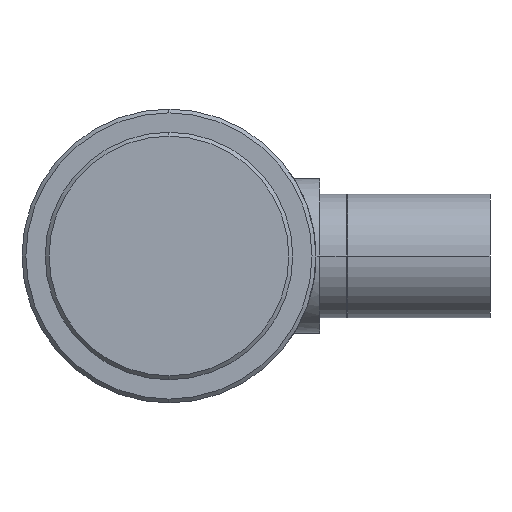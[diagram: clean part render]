
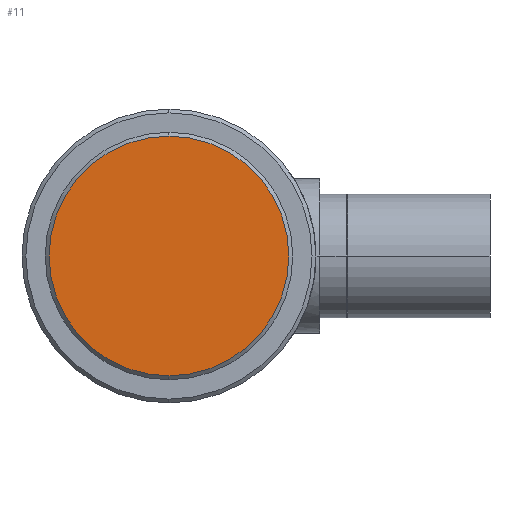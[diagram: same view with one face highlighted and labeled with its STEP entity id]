
A CAD part, left-side view. The second image highlights one B-rep face of the part: STEP entity #11.
In plain terms, the highlighted planar face has unit normal (-1, 0, 0).
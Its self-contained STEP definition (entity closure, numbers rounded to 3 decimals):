
#11 = ADVANCED_FACE ( 'NONE', ( #1395 ), #418, .T. ) ;
#65 = EDGE_CURVE ( 'NONE', #368, #1455, #1698, .T. ) ;
#252 = DIRECTION ( 'NONE',  ( -1., 0., 0. ) ) ;
#368 = VERTEX_POINT ( 'NONE', #931 ) ;
#382 = DIRECTION ( 'NONE',  ( 0., 0., -1. ) ) ;
#418 = PLANE ( 'NONE',  #640 ) ;
#461 = EDGE_CURVE ( 'NONE', #1455, #368, #1136, .T. ) ;
#531 = CARTESIAN_POINT ( 'NONE',  ( 0., 0., 0. ) ) ;
#640 = AXIS2_PLACEMENT_3D ( 'NONE', #923, #252, #1250 ) ;
#867 = DIRECTION ( 'NONE',  ( 1., 0., 0. ) ) ;
#923 = CARTESIAN_POINT ( 'NONE',  ( 0., 0., 0. ) ) ;
#931 = CARTESIAN_POINT ( 'NONE',  ( 0., 0., 15.5 ) ) ;
#1094 = AXIS2_PLACEMENT_3D ( 'NONE', #531, #867, #382 ) ;
#1124 = CARTESIAN_POINT ( 'NONE',  ( 0., 0., 0. ) ) ;
#1136 = CIRCLE ( 'NONE', #2076, 15.5 ) ;
#1167 = EDGE_LOOP ( 'NONE', ( #2043, #2120 ) ) ;
#1250 = DIRECTION ( 'NONE',  ( 0., 0., 1. ) ) ;
#1289 = CARTESIAN_POINT ( 'NONE',  ( 0., 0., -15.5 ) ) ;
#1395 = FACE_OUTER_BOUND ( 'NONE', #1167, .T. ) ;
#1455 = VERTEX_POINT ( 'NONE', #1289 ) ;
#1698 = CIRCLE ( 'NONE', #1094, 15.5 ) ;
#1703 = DIRECTION ( 'NONE',  ( 1., 0., 0. ) ) ;
#1863 = DIRECTION ( 'NONE',  ( 0., 0., -1. ) ) ;
#2043 = ORIENTED_EDGE ( 'NONE', *, *, #461, .F. ) ;
#2076 = AXIS2_PLACEMENT_3D ( 'NONE', #1124, #1703, #1863 ) ;
#2120 = ORIENTED_EDGE ( 'NONE', *, *, #65, .F. ) ;
